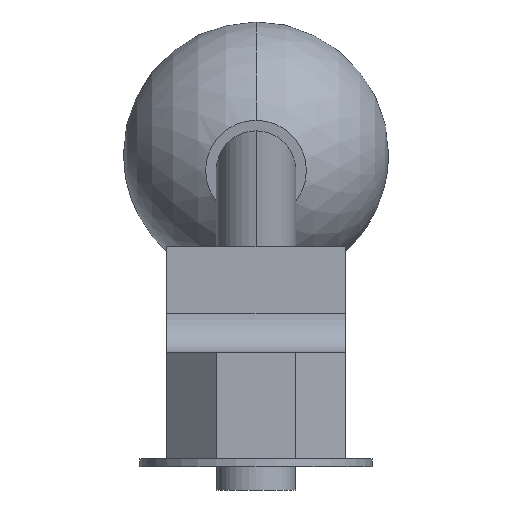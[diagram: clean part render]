
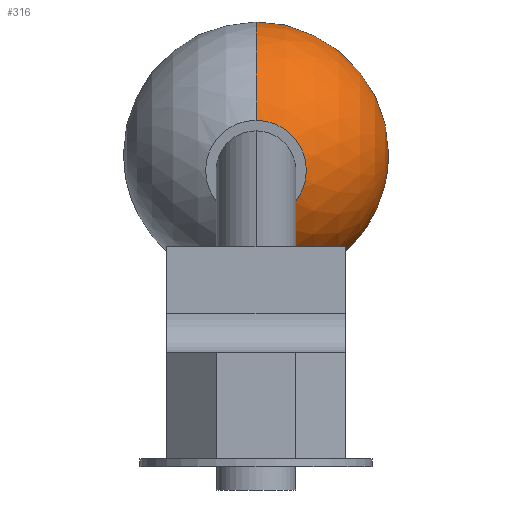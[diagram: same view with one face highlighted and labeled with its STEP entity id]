
A CAD part, front view. The second image highlights one B-rep face of the part: STEP entity #316.
In plain terms, the highlighted spherical face has radius 20 mm.
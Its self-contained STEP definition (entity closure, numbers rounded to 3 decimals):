
#24 = DIRECTION ( 'NONE',  ( 0., -0.991, -0.131 ) ) ;
#85 = DIRECTION ( 'NONE',  ( 0., 0.131, -0.991 ) ) ;
#99 = DIRECTION ( 'NONE',  ( 1., 0., 0. ) ) ;
#102 = EDGE_LOOP ( 'NONE', ( #202, #454, #762 ) ) ;
#172 = CIRCLE ( 'NONE', #441, 7.599 ) ;
#202 = ORIENTED_EDGE ( 'NONE', *, *, #298, .F. ) ;
#223 = DIRECTION ( 'NONE',  ( 0., 0., 1. ) ) ;
#226 = CIRCLE ( 'NONE', #752, 20. ) ;
#230 = EDGE_CURVE ( 'NONE', #697, #516, #172, .T. ) ;
#298 = EDGE_CURVE ( 'NONE', #753, #697, #226, .T. ) ;
#302 = CARTESIAN_POINT ( 'NONE',  ( 0., 206.992, 45.939 ) ) ;
#316 = ADVANCED_FACE ( 'NONE', ( #664 ), #427, .T. ) ;
#339 = EDGE_CURVE ( 'NONE', #753, #516, #466, .T. ) ;
#383 = AXIS2_PLACEMENT_3D ( 'NONE', #723, #596, #605 ) ;
#427 = SPHERICAL_SURFACE ( 'NONE', #383, 20. ) ;
#430 = CARTESIAN_POINT ( 'NONE',  ( 0., 189.642, 35.99 ) ) ;
#441 = AXIS2_PLACEMENT_3D ( 'NONE', #706, #24, #85 ) ;
#448 = CARTESIAN_POINT ( 'NONE',  ( 0., 226.821, 48.55 ) ) ;
#454 = ORIENTED_EDGE ( 'NONE', *, *, #339, .T. ) ;
#466 = CIRCLE ( 'NONE', #624, 20. ) ;
#516 = VERTEX_POINT ( 'NONE', #599 ) ;
#526 = CARTESIAN_POINT ( 'NONE',  ( 0., 206.992, 45.939 ) ) ;
#596 = DIRECTION ( 'NONE',  ( 1., 0., 0. ) ) ;
#599 = CARTESIAN_POINT ( 'NONE',  ( 0., 187.658, 51.059 ) ) ;
#605 = DIRECTION ( 'NONE',  ( 0., 0.131, -0.991 ) ) ;
#624 = AXIS2_PLACEMENT_3D ( 'NONE', #302, #99, #719 ) ;
#664 = FACE_OUTER_BOUND ( 'NONE', #102, .T. ) ;
#697 = VERTEX_POINT ( 'NONE', #430 ) ;
#706 = CARTESIAN_POINT ( 'NONE',  ( 0., 188.65, 43.524 ) ) ;
#719 = DIRECTION ( 'NONE',  ( 0., 0., -1. ) ) ;
#723 = CARTESIAN_POINT ( 'NONE',  ( 0., 206.992, 45.939 ) ) ;
#752 = AXIS2_PLACEMENT_3D ( 'NONE', #526, #776, #223 ) ;
#753 = VERTEX_POINT ( 'NONE', #448 ) ;
#762 = ORIENTED_EDGE ( 'NONE', *, *, #230, .F. ) ;
#776 = DIRECTION ( 'NONE',  ( -1., 0., 0. ) ) ;
